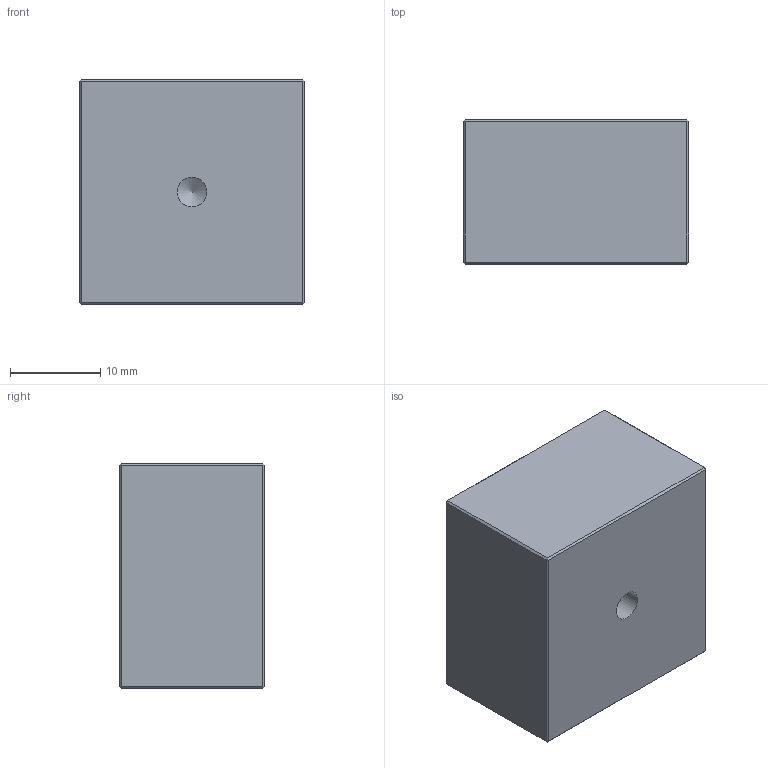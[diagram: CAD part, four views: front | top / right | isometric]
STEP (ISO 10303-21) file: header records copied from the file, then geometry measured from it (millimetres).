
FILE_DESCRIPTION (( 'STEP AP214' ), '1' );
FILE_NAME ('20mm蝶梜PBS假蚾釱.STEP', '2026-10-31T08:27:03', ( '' ), ( '' ), 'SwSTEP 2.0', 'SolidWorks 2022', '' );
FILE_SCHEMA (( 'AUTOMOTIVE_DESIGN' ));
Length unit declared in the file: millimetre
Products named in the file (1): 20mm蝶梜PBS假蚾釱
Bounding box: 25 x 16 x 25 mm (x, y, z)
Volume: 9494.1 mm3; surface area: 3012.2 mm2
Topology: 1 solids, 1 shells, 63 faces, 120 edges, 69 vertices
Faces by surface type: plane 44, cylinder 14, cone 5
Full cylindrical faces by diameter (mm): 2 x9, 3.3 x1
Entity records: 1531 total; most frequent: CARTESIAN_POINT 264, DIRECTION 260, ORIENTED_EDGE 216, EDGE_CURVE 108, AXIS2_PLACEMENT_3D 96, EDGE_LOOP 84, FACE_OUTER_BOUND 73, LINE 68
